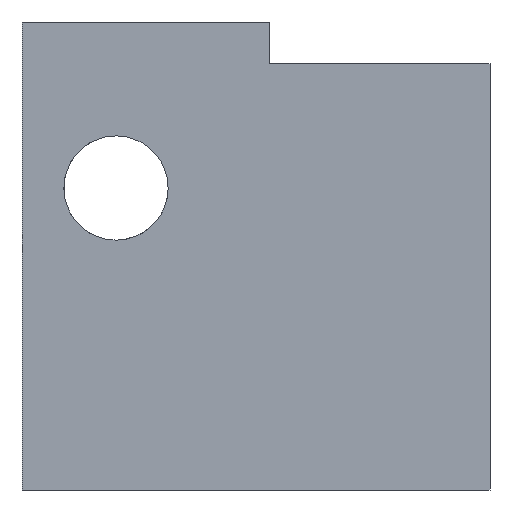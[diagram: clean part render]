
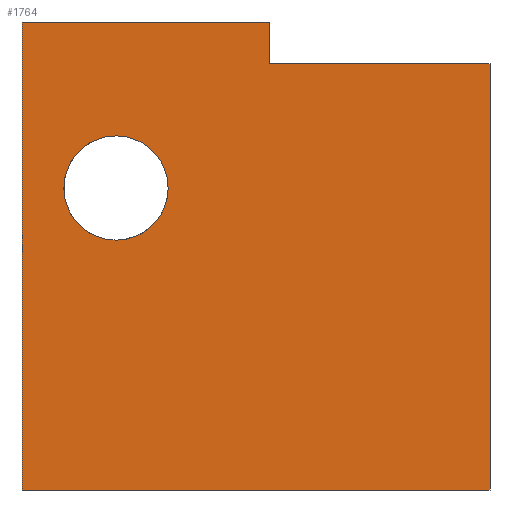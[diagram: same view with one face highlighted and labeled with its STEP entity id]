
A CAD part, left-side view. The second image highlights one B-rep face of the part: STEP entity #1764.
In plain terms, the highlighted planar face has unit normal (-1, 0, 0).
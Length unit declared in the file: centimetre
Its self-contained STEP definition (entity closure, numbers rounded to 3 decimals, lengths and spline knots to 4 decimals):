
#8 = CARTESIAN_POINT ( 'NONE',  ( 0., 1000., 1000. ) ) ;
#53 = EDGE_CURVE ( 'NONE', #1608, #215, #526, .T. ) ;
#170 = DIRECTION ( 'NONE',  ( 0., 0., -1. ) ) ;
#177 = AXIS2_PLACEMENT_3D ( 'NONE', #1267, #1125, #1725 ) ;
#215 = VERTEX_POINT ( 'NONE', #359 ) ;
#228 = VERTEX_POINT ( 'NONE', #1282 ) ;
#244 = CARTESIAN_POINT ( 'NONE',  ( 0., 1000., 1000. ) ) ;
#249 = DIRECTION ( 'NONE',  ( 0., 0., -1. ) ) ;
#259 = ORIENTED_EDGE ( 'NONE', *, *, #525, .T. ) ;
#267 = EDGE_CURVE ( 'NONE', #660, #405, #794, .T. ) ;
#305 = VERTEX_POINT ( 'NONE', #647 ) ;
#332 = CARTESIAN_POINT ( 'NONE',  ( 0., 0., 1000. ) ) ;
#359 = CARTESIAN_POINT ( 'NONE',  ( 0., 471.6149, 911.2086 ) ) ;
#378 = DIRECTION ( 'NONE',  ( 1., 0., 0. ) ) ;
#401 = CARTESIAN_POINT ( 'NONE',  ( 0., 0., 0. ) ) ;
#405 = VERTEX_POINT ( 'NONE', #401 ) ;
#409 = DIRECTION ( 'NONE',  ( 1., 0., 0. ) ) ;
#413 = VECTOR ( 'NONE', #1584, 100. ) ;
#472 = CIRCLE ( 'NONE', #694, 111.3397 ) ;
#479 = ORIENTED_EDGE ( 'NONE', *, *, #500, .T. ) ;
#500 = EDGE_CURVE ( 'NONE', #1151, #228, #472, .T. ) ;
#525 = EDGE_CURVE ( 'NONE', #305, #660, #1036, .T. ) ;
#526 = LINE ( 'NONE', #1706, #600 ) ;
#545 = PLANE ( 'NONE',  #937 ) ;
#600 = VECTOR ( 'NONE', #1107, 100. ) ;
#608 = DIRECTION ( 'NONE',  ( 0., -1., 0. ) ) ;
#633 = DIRECTION ( 'NONE',  ( 0., -1., 0. ) ) ;
#647 = CARTESIAN_POINT ( 'NONE',  ( 0., 1000., 1000. ) ) ;
#660 = VERTEX_POINT ( 'NONE', #1556 ) ;
#694 = AXIS2_PLACEMENT_3D ( 'NONE', #1757, #409, #1595 ) ;
#705 = CARTESIAN_POINT ( 'NONE',  ( 0., 471.6149, 1000. ) ) ;
#714 = VECTOR ( 'NONE', #633, 100. ) ;
#791 = EDGE_CURVE ( 'NONE', #215, #1426, #1052, .T. ) ;
#794 = LINE ( 'NONE', #983, #413 ) ;
#808 = EDGE_LOOP ( 'NONE', ( #1297, #1399, #1550, #1905, #259, #1554 ) ) ;
#847 = FACE_BOUND ( 'NONE', #1237, .T. ) ;
#937 = AXIS2_PLACEMENT_3D ( 'NONE', #244, #378, #1582 ) ;
#976 = VECTOR ( 'NONE', #608, 100. ) ;
#981 = FACE_OUTER_BOUND ( 'NONE', #808, .T. ) ;
#983 = CARTESIAN_POINT ( 'NONE',  ( 0., 1000., 0. ) ) ;
#1036 = LINE ( 'NONE', #1939, #1727 ) ;
#1052 = LINE ( 'NONE', #1937, #976 ) ;
#1059 = CIRCLE ( 'NONE', #177, 111.3397 ) ;
#1107 = DIRECTION ( 'NONE',  ( 0., 0., -1. ) ) ;
#1121 = VECTOR ( 'NONE', #170, 100. ) ;
#1125 = DIRECTION ( 'NONE',  ( 1., 0., 0. ) ) ;
#1151 = VERTEX_POINT ( 'NONE', #1884 ) ;
#1199 = LINE ( 'NONE', #8, #714 ) ;
#1237 = EDGE_LOOP ( 'NONE', ( #1566, #479 ) ) ;
#1267 = CARTESIAN_POINT ( 'NONE',  ( 0., 799.1174, 645.2602 ) ) ;
#1282 = CARTESIAN_POINT ( 'NONE',  ( 0., 799.1174, 533.9205 ) ) ;
#1297 = ORIENTED_EDGE ( 'NONE', *, *, #1576, .F. ) ;
#1331 = CARTESIAN_POINT ( 'NONE',  ( 0., 0., 911.2086 ) ) ;
#1399 = ORIENTED_EDGE ( 'NONE', *, *, #791, .F. ) ;
#1426 = VERTEX_POINT ( 'NONE', #1331 ) ;
#1508 = LINE ( 'NONE', #332, #1121 ) ;
#1550 = ORIENTED_EDGE ( 'NONE', *, *, #53, .F. ) ;
#1554 = ORIENTED_EDGE ( 'NONE', *, *, #267, .T. ) ;
#1556 = CARTESIAN_POINT ( 'NONE',  ( 0., 1000., 0. ) ) ;
#1566 = ORIENTED_EDGE ( 'NONE', *, *, #1754, .T. ) ;
#1576 = EDGE_CURVE ( 'NONE', #1426, #405, #1508, .T. ) ;
#1582 = DIRECTION ( 'NONE',  ( 0., 0., -1. ) ) ;
#1584 = DIRECTION ( 'NONE',  ( 0., -1., 0. ) ) ;
#1595 = DIRECTION ( 'NONE',  ( 0., 0., -1. ) ) ;
#1608 = VERTEX_POINT ( 'NONE', #705 ) ;
#1706 = CARTESIAN_POINT ( 'NONE',  ( 0., 471.6149, 911.2086 ) ) ;
#1725 = DIRECTION ( 'NONE',  ( 0., 0., -1. ) ) ;
#1727 = VECTOR ( 'NONE', #249, 100. ) ;
#1754 = EDGE_CURVE ( 'NONE', #228, #1151, #1059, .T. ) ;
#1757 = CARTESIAN_POINT ( 'NONE',  ( 0., 799.1174, 645.2602 ) ) ;
#1764 = ADVANCED_FACE ( 'NONE', ( #847, #981 ), #545, .F. ) ;
#1799 = EDGE_CURVE ( 'NONE', #305, #1608, #1199, .T. ) ;
#1884 = CARTESIAN_POINT ( 'NONE',  ( 0., 799.1174, 756.5999 ) ) ;
#1905 = ORIENTED_EDGE ( 'NONE', *, *, #1799, .F. ) ;
#1937 = CARTESIAN_POINT ( 'NONE',  ( 0., 471.6149, 911.2086 ) ) ;
#1939 = CARTESIAN_POINT ( 'NONE',  ( 0., 1000., 1000. ) ) ;
